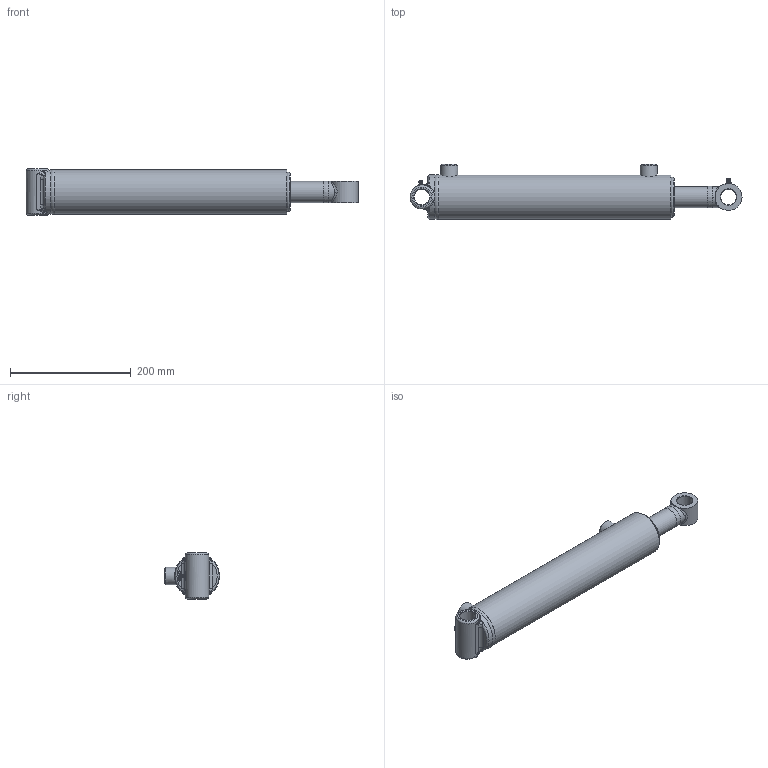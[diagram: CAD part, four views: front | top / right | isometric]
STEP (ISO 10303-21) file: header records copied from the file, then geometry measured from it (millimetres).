
FILE_DESCRIPTION(/* description */ ('Ø2.50 X 12.00 DA'),/* implementation_level */ '2;1');
FILE_NAME(/* name */ 'T:\Aces\Jobs\176dbe1e9d174b35901a9e315bba25c2\result.stp',/* time_stamp */ '2023-08-14T14:11:18+00:00',/* author */ ('AJC'),/* organization */ ('PRINCE MANUFACTURING'),/* preprocessor_version */ 'ST-DEVELOPER v18.1',/* originating_system */ 'Autodesk Inventor 2022',/* authorisation */ '');
FILE_SCHEMA (('AUTOMOTIVE_DESIGN { 1 0 10303 214 3 1 1 }'));
Length unit declared in the file: inch
Products named in the file (21): PC2512013A00-200XYXA; 0613-XYSF000-15237; 0513-T-15237; 161300230; 200015602; 06Weld1_C360; 0713-P-075; 220000208; 0813-G-138; 230025103; 230025003; 240000018; 240061330; 240000330; 0207A-FAW0-18250XA; 0107A-FAW0-18250; 210400812; 02Weld_C360; 240037106; 250014137; 270010020
Assembly tree (22 placements, depth 3):
  PC2512013A00-200XYXA
    0613-XYSF000-15237
      0513-T-15237
      161300230
      200015602  x2
      06Weld1_C360
    0713-P-075
    220000208
    0813-G-138
    230025103
    230025003
    240000018
    240061330
    240000330
    0207A-FAW0-18250XA
      0107A-FAW0-18250
      210400812
      02Weld_C360
    240037106
    250014137
    270010020  x2
Bounding box: 549.71 x 91.34 x 76.2 mm (x, y, z)
Volume: 1125305.9 mm3; surface area: 335476.1 mm2
Topology: 25 solids, 25 shells, 554 faces, 1338 edges, 857 vertices
Faces by surface type: bspline 155, plane 140, torus 86, cone 86, cylinder 83, sphere 4
Full cylindrical faces by diameter (mm): 2.143 x4, 3.175 x1, 5.359 x2, 6.35 x2, 9.525 x2, 12.649 x1, 12.7 x1, 12.725 x1, 17.323 x3, 18.999 x1, 19.126 x1, 21.615 x1, 25.781 x2, 28.575 x2, 34.925 x1, 35.001 x2, 35.56 x2, 36.957 x1, 40.64 x1, 41.3 x1, 44.45 x1, 46.101 x2, 47.625 x2, 50.8 x2, 54.077 x2, 54.813 x2, 59.931 x2, 60.071 x1, 60.096 x4, 62.886 x2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
Entity records: 32494 total; most frequent: CARTESIAN_POINT 20016, ORIENTED_EDGE 2458, DIRECTION 2131, EDGE_CURVE 1229, AXIS2_PLACEMENT_3D 894, VERTEX_POINT 796, EDGE_LOOP 589, FACE_OUTER_BOUND 510
